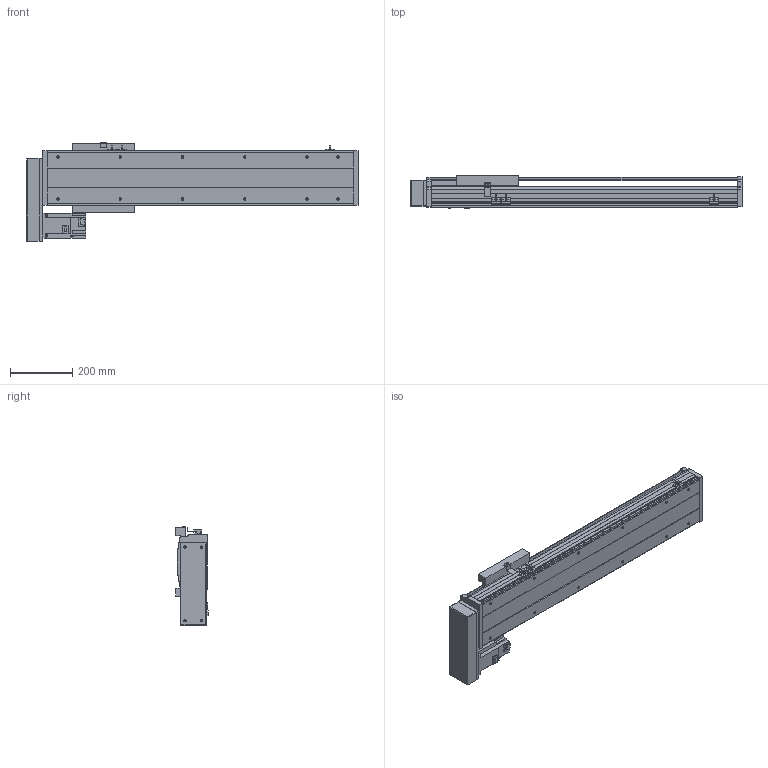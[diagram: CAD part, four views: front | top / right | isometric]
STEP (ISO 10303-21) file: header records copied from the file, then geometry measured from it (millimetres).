
FILE_DESCRIPTION( ( 'STEP AP214' ), '1' );
FILE_NAME( 'x:/temp/worker_6/temp/exporttempdir_5396_270_gO1Bg/format_0/PSS200-L10-S650-BR-T75-C1-N(0).stp', '2022-06-09T01:16:33', ( 'License CC BY-ND 4.0' ), ( 'CADENAS' ), ' ', 'PARTsolutions', ' ' );
FILE_SCHEMA( ( 'AUTOMOTIVE_DESIGN { 1 0 10303 214 1 1 1 1 }' ) );
Length unit declared in the file: millimetre
Products named in the file (8): PSS200-L10-S650-BR-T75-C1-N(0); _PSS200-S650-BR-C1-N_body; _PSS200-N_Q; _PSS200-BR-C1-N_sl; _PSS200-N_sensor; _PSS200BR-N_h; _T75-p1; _PSS200-S650-BR-N_S
Assembly tree (9 placements, depth 2):
  PSS200-L10-S650-BR-T75-C1-N(0)
    _PSS200-S650-BR-C1-N_body
    _PSS200-N_Q
    _PSS200-BR-C1-N_sl
    _PSS200-N_sensor  x3
    _PSS200BR-N_h
    _T75-p1
    _PSS200-S650-BR-N_S
Bounding box: 1066.85 x 105.3 x 317.86 mm (x, y, z)
Volume: 7861076.1 mm3; surface area: 1743533.5 mm2
Topology: 9 solids, 9 shells, 604 faces, 1609 edges, 1062 vertices
Faces by surface type: plane 466, cylinder 114, cone 20, sphere 4
Full cylindrical faces by diameter (mm): 4 x2, 4.5 x4, 6 x7, 6.647 x16, 7.4 x4, 8 x8, 10 x6, 25 x1, 40 x1, 67 x1
Entity records: 21070 total; most frequent: CARTESIAN_POINT 2875, DIRECTION 2772, ORIENTED_EDGE 2738, EDGE_CURVE 1369, LINE 1090, VECTOR 1090, VERTEX_POINT 944, AXIS2_PLACEMENT_3D 841
